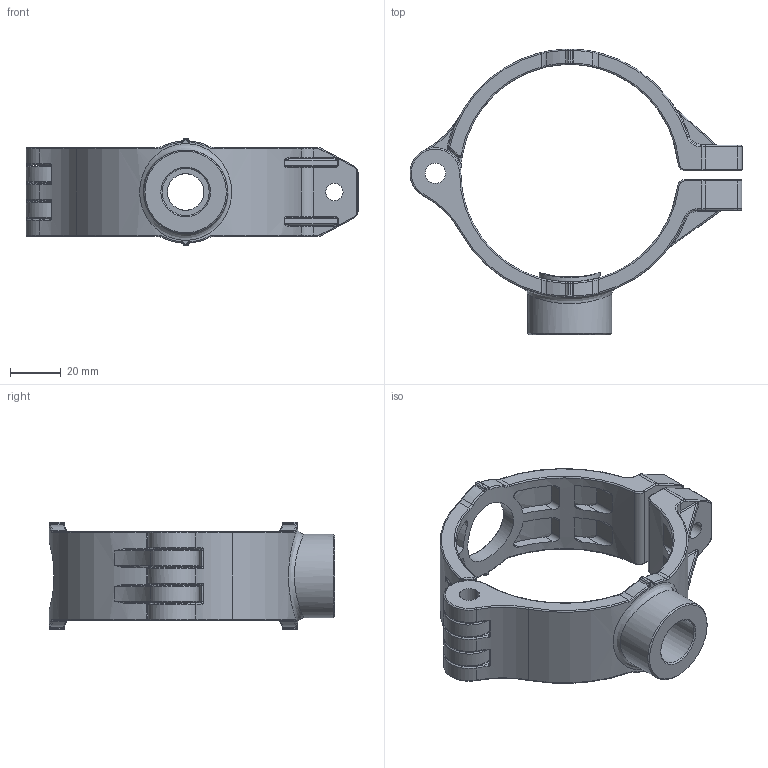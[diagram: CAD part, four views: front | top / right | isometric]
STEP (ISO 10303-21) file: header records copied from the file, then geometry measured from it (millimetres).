
FILE_DESCRIPTION(/* description */ (''),/* implementation_level */ '2;1');
FILE_NAME(/* name */ 'AU19 7099 00.stp',/* time_stamp */ '2025-07-25T14:08:23+08:00',/* author */ (''),/* organization */ (''),/* preprocessor_version */ 'ST-DEVELOPER v11',/* originating_system */ 'SIEMENS PLM Software NX 7.5',/* authorisation */ '');
FILE_SCHEMA (('CONFIG_CONTROL_DESIGN'));
Length unit declared in the file: millimetre
Products named in the file (1): Admi3CF6xyd3
Bounding box: 130.59 x 112.3 x 42.31 mm (x, y, z)
Volume: 76497.7 mm3; surface area: 37455.5 mm2
Topology: 2 solids, 2 shells, 584 faces, 1458 edges, 883 vertices
Faces by surface type: cylinder 249, torus 110, plane 104, bspline 102, sphere 16, cone 3
Full cylindrical faces by diameter (mm): 18.5 x1, 33 x1
Entity records: 25109 total; most frequent: CARTESIAN_POINT 12241, ORIENTED_EDGE 2862, DIRECTION 2490, EDGE_CURVE 1431, AXIS2_PLACEMENT_3D 1032, VERTEX_POINT 879, EDGE_LOOP 630, ADVANCED_FACE 584
